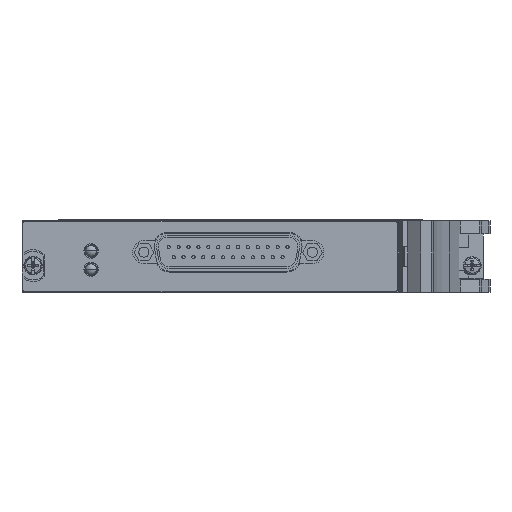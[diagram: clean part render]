
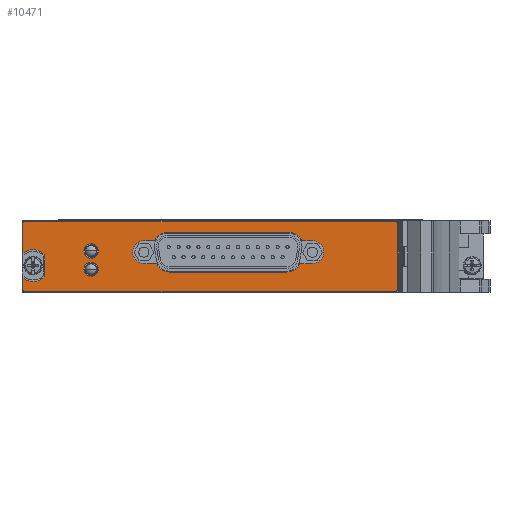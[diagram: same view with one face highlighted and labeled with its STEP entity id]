
A CAD part, left-side view. The second image highlights one B-rep face of the part: STEP entity #10471.
In plain terms, the highlighted planar face has unit normal (-1, 0, 0).
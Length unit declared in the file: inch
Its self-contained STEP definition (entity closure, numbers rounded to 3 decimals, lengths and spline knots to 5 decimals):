
#977=CARTESIAN_POINT('',(-0.21045,0.53501,0.665));
#978=DIRECTION('',(-1.,0.,0.));
#979=DIRECTION('',(0.,0.,1.));
#980=AXIS2_PLACEMENT_3D('',#977,#978,#979);
#982=DIRECTION('',(0.,1.,0.));
#983=VECTOR('',#982,4.07);
#984=CARTESIAN_POINT('',(-0.21045,-3.53499,0.685));
#985=LINE('',#984,#983);
#986=CARTESIAN_POINT('',(-0.21045,-3.53499,0.665));
#987=DIRECTION('',(-1.,0.,0.));
#988=DIRECTION('',(0.,-1.,0.));
#989=AXIS2_PLACEMENT_3D('',#986,#987,#988);
#991=DIRECTION('',(0.,0.,1.));
#992=VECTOR('',#991,0.728);
#993=CARTESIAN_POINT('',(-0.21045,-3.55499,-0.063));
#994=LINE('',#993,#992);
#995=CARTESIAN_POINT('',(-0.21045,-3.53499,-0.063));
#996=DIRECTION('',(-1.,0.,0.));
#997=DIRECTION('',(0.,0.,-1.));
#998=AXIS2_PLACEMENT_3D('',#995,#996,#997);
#1000=DIRECTION('',(0.,-1.,0.));
#1001=VECTOR('',#1000,4.07);
#1002=CARTESIAN_POINT('',(-0.21045,0.53501,-0.083));
#1003=LINE('',#1002,#1001);
#1004=CARTESIAN_POINT('',(-0.21045,0.53501,-0.063));
#1005=DIRECTION('',(-1.,0.,0.));
#1006=DIRECTION('',(0.,1.,0.));
#1007=AXIS2_PLACEMENT_3D('',#1004,#1005,#1006);
#1009=DIRECTION('',(0.,0.,-1.));
#1010=VECTOR('',#1009,0.12953);
#1011=CARTESIAN_POINT('',(-0.21045,0.55501,0.06653));
#1012=LINE('',#1011,#1010);
#1013=CARTESIAN_POINT('',(-0.21045,0.44301,0.201));
#1014=DIRECTION('',(1.,0.,0.));
#1015=DIRECTION('',(0.,-0.737,-0.676));
#1016=AXIS2_PLACEMENT_3D('',#1013,#1014,#1015);
#1018=DIRECTION('',(0.,0.,-1.));
#1019=VECTOR('',#1018,0.23651);
#1020=CARTESIAN_POINT('',(-0.21045,0.31401,0.31925));
#1021=LINE('',#1020,#1019);
#1022=CARTESIAN_POINT('',(-0.21045,0.44301,0.201));
#1023=DIRECTION('',(1.,0.,0.));
#1024=DIRECTION('',(0.,0.64,0.768));
#1025=AXIS2_PLACEMENT_3D('',#1022,#1023,#1024);
#1027=DIRECTION('',(0.,0.,-1.));
#1028=VECTOR('',#1027,0.32953);
#1029=CARTESIAN_POINT('',(-0.21045,0.55501,0.665));
#1030=LINE('',#1029,#1028);
#1031=DIRECTION('',(0.,-1.,0.));
#1032=VECTOR('',#1031,1.288);
#1033=CARTESIAN_POINT('',(-0.21045,-1.05399,0.131));
#1034=LINE('',#1033,#1032);
#1035=CARTESIAN_POINT('',(-0.21045,-2.34199,0.28595));
#1036=DIRECTION('',(-1.,0.,0.));
#1037=DIRECTION('',(0.,0.,-1.));
#1038=AXIS2_PLACEMENT_3D('',#1035,#1036,#1037);
#1040=DIRECTION('',(0.,-1.,0.));
#1041=VECTOR('',#1040,0.139);
#1042=CARTESIAN_POINT('',(-0.21045,-2.48399,0.22395));
#1043=LINE('',#1042,#1041);
#1044=CARTESIAN_POINT('',(-0.21045,-2.62299,0.34895));
#1045=DIRECTION('',(-1.,0.,0.));
#1046=DIRECTION('',(0.,0.,-1.));
#1047=AXIS2_PLACEMENT_3D('',#1044,#1045,#1046);
#1049=DIRECTION('',(0.,1.,0.));
#1050=VECTOR('',#1049,0.117);
#1051=CARTESIAN_POINT('',(-0.21045,-2.62299,0.47395));
#1052=LINE('',#1051,#1050);
#1053=CARTESIAN_POINT('',(-0.21045,-2.36399,0.41195));
#1054=DIRECTION('',(-1.,0.,0.));
#1055=DIRECTION('',(0.,-0.916,0.4));
#1056=AXIS2_PLACEMENT_3D('',#1053,#1054,#1055);
#1058=DIRECTION('',(0.,1.,0.));
#1059=VECTOR('',#1058,1.332);
#1060=CARTESIAN_POINT('',(-0.21045,-2.36399,0.56689));
#1061=LINE('',#1060,#1059);
#1062=CARTESIAN_POINT('',(-0.21045,-1.03199,0.41195));
#1063=DIRECTION('',(-1.,0.,0.));
#1064=DIRECTION('',(0.,0.,1.));
#1065=AXIS2_PLACEMENT_3D('',#1062,#1063,#1064);
#1067=DIRECTION('',(0.,1.,0.));
#1068=VECTOR('',#1067,0.117);
#1069=CARTESIAN_POINT('',(-0.21045,-0.88999,0.47395));
#1070=LINE('',#1069,#1068);
#1071=CARTESIAN_POINT('',(-0.21045,-0.77299,0.34895));
#1072=DIRECTION('',(-1.,0.,0.));
#1073=DIRECTION('',(0.,0.,1.));
#1074=AXIS2_PLACEMENT_3D('',#1071,#1072,#1073);
#1076=DIRECTION('',(0.,-1.,0.));
#1077=VECTOR('',#1076,0.139);
#1078=CARTESIAN_POINT('',(-0.21045,-0.77299,0.22395));
#1079=LINE('',#1078,#1077);
#1080=CARTESIAN_POINT('',(-0.21045,-1.05399,0.28595));
#1081=DIRECTION('',(-1.,0.,0.));
#1082=DIRECTION('',(0.,0.916,-0.4));
#1083=AXIS2_PLACEMENT_3D('',#1080,#1081,#1082);
#1085=CARTESIAN_POINT('',(-0.21045,-0.19399,0.162));
#1086=DIRECTION('',(-1.,0.,0.));
#1087=DIRECTION('',(0.,0.,1.));
#1088=AXIS2_PLACEMENT_3D('',#1085,#1086,#1087);
#1090=CARTESIAN_POINT('',(-0.21045,-0.19399,0.162));
#1091=DIRECTION('',(-1.,0.,0.));
#1092=DIRECTION('',(0.,0.,-1.));
#1093=AXIS2_PLACEMENT_3D('',#1090,#1091,#1092);
#1095=CARTESIAN_POINT('',(-0.21045,-0.19399,0.362));
#1096=DIRECTION('',(-1.,0.,0.));
#1097=DIRECTION('',(0.,0.,1.));
#1098=AXIS2_PLACEMENT_3D('',#1095,#1096,#1097);
#1100=CARTESIAN_POINT('',(-0.21045,-0.19399,0.362));
#1101=DIRECTION('',(-1.,0.,0.));
#1102=DIRECTION('',(0.,0.,-1.));
#1103=AXIS2_PLACEMENT_3D('',#1100,#1101,#1102);
#9583=CARTESIAN_POINT('',(-0.21045,0.53501,0.685));
#9584=CARTESIAN_POINT('',(-0.21045,0.55501,0.665));
#9585=VERTEX_POINT('',#9583);
#9586=VERTEX_POINT('',#9584);
#9587=CARTESIAN_POINT('',(-0.21045,0.55501,0.33547));
#9588=VERTEX_POINT('',#9587);
#9589=CARTESIAN_POINT('',(-0.21045,0.31401,0.31925));
#9590=VERTEX_POINT('',#9589);
#9591=CARTESIAN_POINT('',(-0.21045,0.31401,0.08275));
#9592=VERTEX_POINT('',#9591);
#9593=CARTESIAN_POINT('',(-0.21045,0.55501,0.06653));
#9594=VERTEX_POINT('',#9593);
#9595=CARTESIAN_POINT('',(-0.21045,0.55501,-0.063));
#9596=VERTEX_POINT('',#9595);
#9597=CARTESIAN_POINT('',(-0.21045,0.53501,-0.083));
#9598=VERTEX_POINT('',#9597);
#9599=CARTESIAN_POINT('',(-0.21045,-3.53499,-0.083));
#9600=VERTEX_POINT('',#9599);
#9601=CARTESIAN_POINT('',(-0.21045,-3.55499,-0.063));
#9602=VERTEX_POINT('',#9601);
#9603=CARTESIAN_POINT('',(-0.21045,-3.55499,0.665));
#9604=VERTEX_POINT('',#9603);
#9605=CARTESIAN_POINT('',(-0.21045,-3.53499,0.685));
#9606=VERTEX_POINT('',#9605);
#9607=CARTESIAN_POINT('',(-0.21045,-1.05399,0.131));
#9608=CARTESIAN_POINT('',(-0.21045,-2.34199,0.131));
#9609=VERTEX_POINT('',#9607);
#9610=VERTEX_POINT('',#9608);
#9611=CARTESIAN_POINT('',(-0.21045,-2.48399,0.22395));
#9612=VERTEX_POINT('',#9611);
#9613=CARTESIAN_POINT('',(-0.21045,-2.62299,0.22395));
#9614=VERTEX_POINT('',#9613);
#9615=CARTESIAN_POINT('',(-0.21045,-2.62299,0.47395));
#9616=VERTEX_POINT('',#9615);
#9617=CARTESIAN_POINT('',(-0.21045,-2.50599,0.47395));
#9618=VERTEX_POINT('',#9617);
#9619=CARTESIAN_POINT('',(-0.21045,-2.36399,0.56689));
#9620=VERTEX_POINT('',#9619);
#9621=CARTESIAN_POINT('',(-0.21045,-1.03199,0.56689));
#9622=VERTEX_POINT('',#9621);
#9623=CARTESIAN_POINT('',(-0.21045,-0.88999,0.47395));
#9624=VERTEX_POINT('',#9623);
#9625=CARTESIAN_POINT('',(-0.21045,-0.77299,0.47395));
#9626=VERTEX_POINT('',#9625);
#9627=CARTESIAN_POINT('',(-0.21045,-0.77299,0.22395));
#9628=VERTEX_POINT('',#9627);
#9629=CARTESIAN_POINT('',(-0.21045,-0.91199,0.22395));
#9630=VERTEX_POINT('',#9629);
#9631=CARTESIAN_POINT('',(-0.21045,-0.19399,0.2405));
#9632=CARTESIAN_POINT('',(-0.21045,-0.19399,0.0835));
#9633=VERTEX_POINT('',#9631);
#9634=VERTEX_POINT('',#9632);
#9635=CARTESIAN_POINT('',(-0.21045,-0.19399,0.4405));
#9636=CARTESIAN_POINT('',(-0.21045,-0.19399,0.2835));
#9637=VERTEX_POINT('',#9635);
#9638=VERTEX_POINT('',#9636);
#10404=CARTESIAN_POINT('',(-0.21045,0.44301,0.201));
#10405=DIRECTION('',(-1.,0.,0.));
#10406=DIRECTION('',(0.,0.,1.));
#10407=AXIS2_PLACEMENT_3D('',#10404,#10405,#10406);
#10408=PLANE('',#10407);
#10409=ORIENTED_EDGE('',*,*,#10332,.F.);
#10411=ORIENTED_EDGE('',*,*,#10410,.F.);
#10413=ORIENTED_EDGE('',*,*,#10412,.F.);
#10415=ORIENTED_EDGE('',*,*,#10414,.F.);
#10417=ORIENTED_EDGE('',*,*,#10416,.F.);
#10419=ORIENTED_EDGE('',*,*,#10418,.F.);
#10421=ORIENTED_EDGE('',*,*,#10420,.F.);
#10423=ORIENTED_EDGE('',*,*,#10422,.F.);
#10425=ORIENTED_EDGE('',*,*,#10424,.F.);
#10427=ORIENTED_EDGE('',*,*,#10426,.F.);
#10429=ORIENTED_EDGE('',*,*,#10428,.F.);
#10430=ORIENTED_EDGE('',*,*,#10397,.F.);
#10431=EDGE_LOOP('',(#10409,#10411,#10413,#10415,#10417,#10419,#10421,#10423,
#10425,#10427,#10429,#10430));
#10432=FACE_OUTER_BOUND('',#10431,.F.);
#10434=ORIENTED_EDGE('',*,*,#10433,.T.);
#10436=ORIENTED_EDGE('',*,*,#10435,.T.);
#10438=ORIENTED_EDGE('',*,*,#10437,.T.);
#10440=ORIENTED_EDGE('',*,*,#10439,.T.);
#10442=ORIENTED_EDGE('',*,*,#10441,.T.);
#10444=ORIENTED_EDGE('',*,*,#10443,.T.);
#10446=ORIENTED_EDGE('',*,*,#10445,.T.);
#10448=ORIENTED_EDGE('',*,*,#10447,.T.);
#10450=ORIENTED_EDGE('',*,*,#10449,.T.);
#10452=ORIENTED_EDGE('',*,*,#10451,.T.);
#10454=ORIENTED_EDGE('',*,*,#10453,.T.);
#10456=ORIENTED_EDGE('',*,*,#10455,.T.);
#10457=EDGE_LOOP('',(#10434,#10436,#10438,#10440,#10442,#10444,#10446,#10448,
#10450,#10452,#10454,#10456));
#10458=FACE_BOUND('',#10457,.F.);
#10460=ORIENTED_EDGE('',*,*,#10459,.T.);
#10462=ORIENTED_EDGE('',*,*,#10461,.T.);
#10463=EDGE_LOOP('',(#10460,#10462));
#10464=FACE_BOUND('',#10463,.F.);
#10466=ORIENTED_EDGE('',*,*,#10465,.T.);
#10468=ORIENTED_EDGE('',*,*,#10467,.T.);
#10469=EDGE_LOOP('',(#10466,#10468));
#10470=FACE_BOUND('',#10469,.F.);
#10471=ADVANCED_FACE('',(#10432,#10458,#10464,#10470),#10408,.T.);
#981=CIRCLE('',#980,0.02);
#990=CIRCLE('',#989,0.02);
#999=CIRCLE('',#998,0.02);
#1008=CIRCLE('',#1007,0.02);
#1017=CIRCLE('',#1016,0.175);
#1026=CIRCLE('',#1025,0.175);
#1039=CIRCLE('',#1038,0.15495);
#1048=CIRCLE('',#1047,0.125);
#1057=CIRCLE('',#1056,0.15495);
#1066=CIRCLE('',#1065,0.15495);
#1075=CIRCLE('',#1074,0.125);
#1084=CIRCLE('',#1083,0.15495);
#1089=CIRCLE('',#1088,0.0785);
#1094=CIRCLE('',#1093,0.0785);
#1099=CIRCLE('',#1098,0.0785);
#1104=CIRCLE('',#1103,0.0785);
#10332=EDGE_CURVE('',#9585,#9586,#981,.T.);
#10397=EDGE_CURVE('',#9586,#9588,#1030,.T.);
#10410=EDGE_CURVE('',#9606,#9585,#985,.T.);
#10412=EDGE_CURVE('',#9604,#9606,#990,.T.);
#10414=EDGE_CURVE('',#9602,#9604,#994,.T.);
#10416=EDGE_CURVE('',#9600,#9602,#999,.T.);
#10418=EDGE_CURVE('',#9598,#9600,#1003,.T.);
#10420=EDGE_CURVE('',#9596,#9598,#1008,.T.);
#10422=EDGE_CURVE('',#9594,#9596,#1012,.T.);
#10424=EDGE_CURVE('',#9592,#9594,#1017,.T.);
#10426=EDGE_CURVE('',#9590,#9592,#1021,.T.);
#10428=EDGE_CURVE('',#9588,#9590,#1026,.T.);
#10433=EDGE_CURVE('',#9609,#9610,#1034,.T.);
#10435=EDGE_CURVE('',#9610,#9612,#1039,.T.);
#10437=EDGE_CURVE('',#9612,#9614,#1043,.T.);
#10439=EDGE_CURVE('',#9614,#9616,#1048,.T.);
#10441=EDGE_CURVE('',#9616,#9618,#1052,.T.);
#10443=EDGE_CURVE('',#9618,#9620,#1057,.T.);
#10445=EDGE_CURVE('',#9620,#9622,#1061,.T.);
#10447=EDGE_CURVE('',#9622,#9624,#1066,.T.);
#10449=EDGE_CURVE('',#9624,#9626,#1070,.T.);
#10451=EDGE_CURVE('',#9626,#9628,#1075,.T.);
#10453=EDGE_CURVE('',#9628,#9630,#1079,.T.);
#10455=EDGE_CURVE('',#9630,#9609,#1084,.T.);
#10459=EDGE_CURVE('',#9633,#9634,#1089,.T.);
#10461=EDGE_CURVE('',#9634,#9633,#1094,.T.);
#10465=EDGE_CURVE('',#9637,#9638,#1099,.T.);
#10467=EDGE_CURVE('',#9638,#9637,#1104,.T.);
